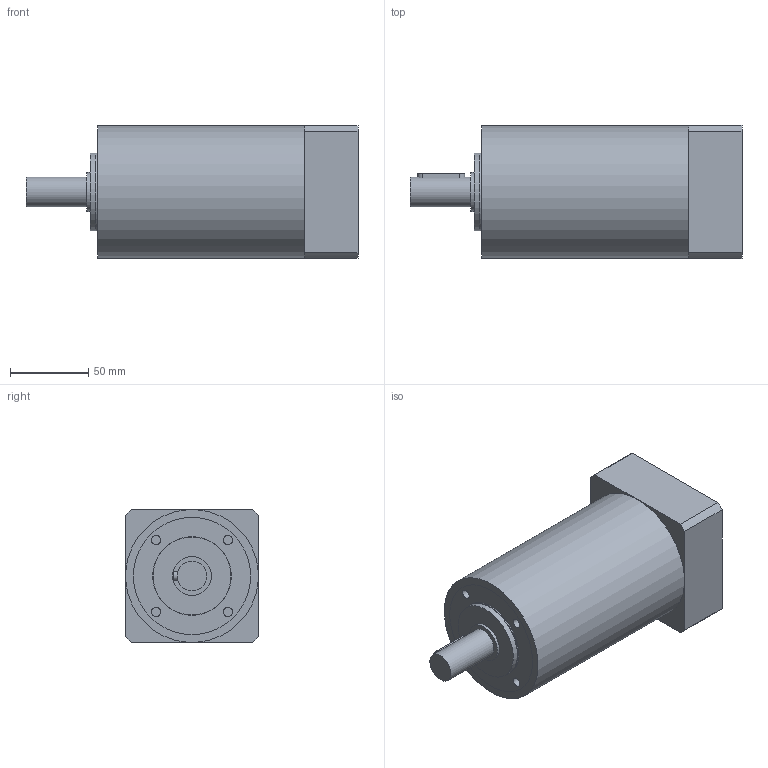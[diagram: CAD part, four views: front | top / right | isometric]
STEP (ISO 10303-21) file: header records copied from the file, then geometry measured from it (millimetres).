
FILE_DESCRIPTION(/* description */ (''),/* implementation_level */ '2;1');
FILE_NAME(/* name */ 'MPMOS_0000243420170823073810_step214.stp',/* time_stamp */ '2017-08-23T13:08:51+02:00',/* author */ (''),/* organization */ (''),/* preprocessor_version */ 'ST-DEVELOPER v15',/* originating_system */ 'SIEMENS PLM Software NX 9.0',/* authorisation */ '');
FILE_SCHEMA (('AUTOMOTIVE_DESIGN { 1 0 10303 214 0 1 1 1 }'));
Length unit declared in the file: millimetre
Products named in the file (1): MPMOS_0000243420170823073810_M
Bounding box: 212.5 x 85 x 85 mm (x, y, z)
Volume: 963975 mm3; surface area: 115684.9 mm2
Topology: 9 solids, 9 shells, 115 faces, 221 edges, 142 vertices
Faces by surface type: plane 55, cylinder 41, cone 16, torus 3
Full cylindrical faces by diameter (mm): 5 x5, 6 x8, 8.72 x1, 9 x1, 9.52 x1, 13 x1, 13.75 x1, 19 x1, 25 x4, 47 x1, 50 x1, 52 x1, 68 x2, 73 x1, 75 x2, 85 x1
Entity records: 2784 total; most frequent: CARTESIAN_POINT 529, DIRECTION 482, ORIENTED_EDGE 332, AXIS2_PLACEMENT_3D 214, EDGE_LOOP 190, EDGE_CURVE 166, FACE_BOUND 136, VERTEX_POINT 129
